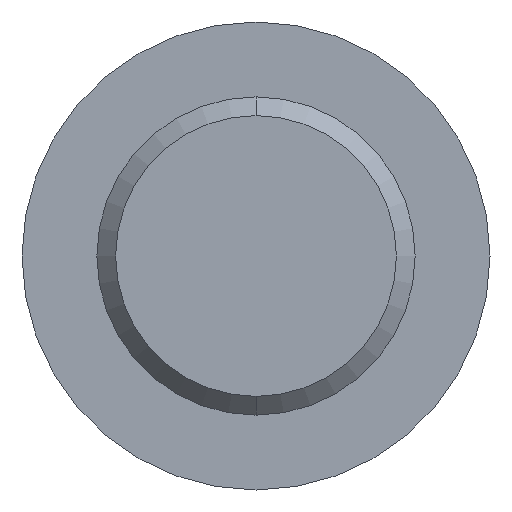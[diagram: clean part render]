
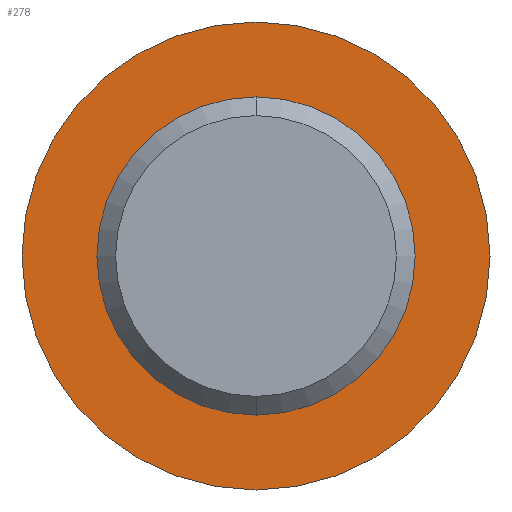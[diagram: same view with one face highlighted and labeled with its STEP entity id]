
A CAD part, front view. The second image highlights one B-rep face of the part: STEP entity #278.
In plain terms, the highlighted planar face has unit normal (0, -1, 0).
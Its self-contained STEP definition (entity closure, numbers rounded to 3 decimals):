
#49=CARTESIAN_POINT('',(0.,-1.702,0.));
#50=DIRECTION('',(0.,-1.,0.));
#51=DIRECTION('',(0.,0.,-1.));
#52=AXIS2_PLACEMENT_3D('',#49,#50,#51);
#62=CARTESIAN_POINT('',(0.,-1.702,0.));
#63=DIRECTION('',(0.,1.,0.));
#64=DIRECTION('',(0.,0.,-1.));
#65=AXIS2_PLACEMENT_3D('',#62,#63,#64);
#67=CARTESIAN_POINT('',(0.,-1.702,0.));
#68=DIRECTION('',(0.,-1.,0.));
#69=DIRECTION('',(0.,0.,-1.));
#70=AXIS2_PLACEMENT_3D('',#67,#68,#69);
#72=CARTESIAN_POINT('',(0.,-1.702,0.));
#73=DIRECTION('',(0.,1.,0.));
#74=DIRECTION('',(0.,0.,-1.));
#75=AXIS2_PLACEMENT_3D('',#72,#73,#74);
#143=CARTESIAN_POINT('',(0.,-1.702,-1.02));
#144=VERTEX_POINT('',#143);
#145=CARTESIAN_POINT('',(0.,-1.702,-1.5));
#147=VERTEX_POINT('',#145);
#159=CARTESIAN_POINT('',(0.,-1.702,1.02));
#160=VERTEX_POINT('',#159);
#161=CARTESIAN_POINT('',(0.,-1.702,1.5));
#163=VERTEX_POINT('',#161);
#263=CARTESIAN_POINT('',(0.,-1.702,0.));
#264=DIRECTION('',(0.,-1.,0.));
#265=DIRECTION('',(0.,0.,1.));
#266=AXIS2_PLACEMENT_3D('',#263,#264,#265);
#267=PLANE('',#266);
#268=ORIENTED_EDGE('',*,*,#258,.T.);
#269=ORIENTED_EDGE('',*,*,#242,.F.);
#270=EDGE_LOOP('',(#268,#269));
#271=FACE_OUTER_BOUND('',#270,.F.);
#273=ORIENTED_EDGE('',*,*,#272,.T.);
#275=ORIENTED_EDGE('',*,*,#274,.F.);
#276=EDGE_LOOP('',(#273,#275));
#277=FACE_BOUND('',#276,.F.);
#278=ADVANCED_FACE('',(#271,#277),#267,.T.);
#53=CIRCLE('',#52,1.5);
#66=CIRCLE('',#65,1.5);
#71=CIRCLE('',#70,1.02);
#76=CIRCLE('',#75,1.02);
#242=EDGE_CURVE('',#147,#163,#53,.T.);
#258=EDGE_CURVE('',#147,#163,#66,.T.);
#272=EDGE_CURVE('',#144,#160,#71,.T.);
#274=EDGE_CURVE('',#144,#160,#76,.T.);
